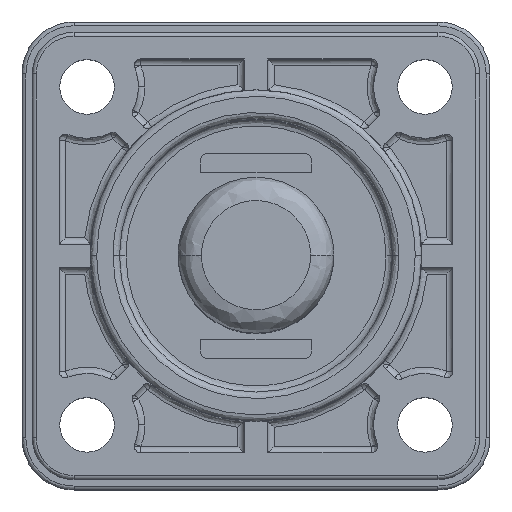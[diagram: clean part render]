
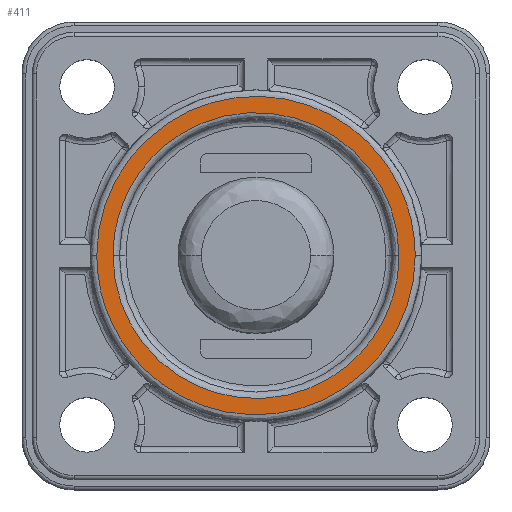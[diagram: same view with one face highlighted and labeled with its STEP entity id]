
A CAD part, top view. The second image highlights one B-rep face of the part: STEP entity #411.
In plain terms, the highlighted planar face has unit normal (0, 0, 1).
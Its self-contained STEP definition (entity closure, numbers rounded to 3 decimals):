
#66 =( BOUNDED_CURVE ( )  B_SPLINE_CURVE ( 3, ( #3121, #10037, #7485, #2292 ),
 .UNSPECIFIED., .F., .F. ) 
 B_SPLINE_CURVE_WITH_KNOTS ( ( 4, 4 ),
 ( 0., 1. ),
 .UNSPECIFIED. ) 
 CURVE ( )  GEOMETRIC_REPRESENTATION_ITEM ( )  RATIONAL_B_SPLINE_CURVE ( ( 1., 0.333, 0.333, 1. ) ) 
 REPRESENTATION_ITEM ( '' )  );
#206 = CARTESIAN_POINT ( 'NONE',  ( -25.513, 17.496, 17.5 ) ) ;
#411 = ADVANCED_FACE ( 'NONE', ( #7375, #724 ), #10288, .F. ) ;
#576 = VERTEX_POINT ( 'NONE', #10977 ) ;
#724 = FACE_BOUND ( 'NONE', #5933, .T. ) ;
#762 = CARTESIAN_POINT ( 'NONE',  ( -23.763, -7.004, 17.5 ) ) ;
#779 = CARTESIAN_POINT ( 'NONE',  ( -2.263, -7.004, 17.5 ) ) ;
#1125 = ORIENTED_EDGE ( 'NONE', *, *, #8592, .F. ) ;
#1225 = AXIS2_PLACEMENT_3D ( 'NONE', #762, #6840, #1635 ) ;
#1273 = VERTEX_POINT ( 'NONE', #2638 ) ;
#1635 = DIRECTION ( 'NONE',  ( -1., 0., 0. ) ) ;
#2292 = CARTESIAN_POINT ( 'NONE',  ( -25.513, -7.004, 17.5 ) ) ;
#2499 = ORIENTED_EDGE ( 'NONE', *, *, #10110, .F. ) ;
#2638 = CARTESIAN_POINT ( 'NONE',  ( -2.263, -7.004, 17.5 ) ) ;
#3121 = CARTESIAN_POINT ( 'NONE',  ( -1.013, -7.004, 17.5 ) ) ;
#3353 = CARTESIAN_POINT ( 'NONE',  ( -2.263, 14.996, 17.5 ) ) ;
#3504 = VERTEX_POINT ( 'NONE', #4298 ) ;
#3691 = CARTESIAN_POINT ( 'NONE',  ( -1.013, 17.496, 17.5 ) ) ;
#3870 = CARTESIAN_POINT ( 'NONE',  ( -25.513, -7.004, 17.5 ) ) ;
#3967 = ORIENTED_EDGE ( 'NONE', *, *, #6251, .F. ) ;
#4226 = CARTESIAN_POINT ( 'NONE',  ( -24.263, -7.004, 17.5 ) ) ;
#4298 = CARTESIAN_POINT ( 'NONE',  ( -24.263, -7.004, 17.5 ) ) ;
#4577 =( BOUNDED_CURVE ( )  B_SPLINE_CURVE ( 3, ( #4226, #9439, #5958, #779 ),
 .UNSPECIFIED., .F., .F. ) 
 B_SPLINE_CURVE_WITH_KNOTS ( ( 4, 4 ),
 ( 0., 1. ),
 .UNSPECIFIED. ) 
 CURVE ( )  GEOMETRIC_REPRESENTATION_ITEM ( )  RATIONAL_B_SPLINE_CURVE ( ( 1., 0.333, 0.333, 1. ) ) 
 REPRESENTATION_ITEM ( '' )  );
#5871 =( BOUNDED_CURVE ( )  B_SPLINE_CURVE ( 3, ( #7164, #206, #3691, #9785 ),
 .UNSPECIFIED., .F., .F. ) 
 B_SPLINE_CURVE_WITH_KNOTS ( ( 4, 4 ),
 ( 0., 1. ),
 .UNSPECIFIED. ) 
 CURVE ( )  GEOMETRIC_REPRESENTATION_ITEM ( )  RATIONAL_B_SPLINE_CURVE ( ( 1., 0.333, 0.333, 1. ) ) 
 REPRESENTATION_ITEM ( '' )  );
#5933 = EDGE_LOOP ( 'NONE', ( #2499, #7708 ) ) ;
#5942 = CARTESIAN_POINT ( 'NONE',  ( -24.263, -7.004, 17.5 ) ) ;
#5958 = CARTESIAN_POINT ( 'NONE',  ( -2.263, -29.004, 17.5 ) ) ;
#6251 = EDGE_CURVE ( 'NONE', #576, #6629, #66, .T. ) ;
#6629 = VERTEX_POINT ( 'NONE', #3870 ) ;
#6840 = DIRECTION ( 'NONE',  ( 0., 0., -1. ) ) ;
#7164 = CARTESIAN_POINT ( 'NONE',  ( -25.513, -7.004, 17.5 ) ) ;
#7276 =( BOUNDED_CURVE ( )  B_SPLINE_CURVE ( 3, ( #9412, #3353, #11121, #5942 ),
 .UNSPECIFIED., .F., .F. ) 
 B_SPLINE_CURVE_WITH_KNOTS ( ( 4, 4 ),
 ( 0., 1. ),
 .UNSPECIFIED. ) 
 CURVE ( )  GEOMETRIC_REPRESENTATION_ITEM ( )  RATIONAL_B_SPLINE_CURVE ( ( 1., 0.333, 0.333, 1. ) ) 
 REPRESENTATION_ITEM ( '' )  );
#7375 = FACE_OUTER_BOUND ( 'NONE', #9269, .T. ) ;
#7485 = CARTESIAN_POINT ( 'NONE',  ( -25.513, -31.504, 17.5 ) ) ;
#7708 = ORIENTED_EDGE ( 'NONE', *, *, #10962, .F. ) ;
#8592 = EDGE_CURVE ( 'NONE', #6629, #576, #5871, .T. ) ;
#9269 = EDGE_LOOP ( 'NONE', ( #1125, #3967 ) ) ;
#9412 = CARTESIAN_POINT ( 'NONE',  ( -2.263, -7.004, 17.5 ) ) ;
#9439 = CARTESIAN_POINT ( 'NONE',  ( -24.263, -29.004, 17.5 ) ) ;
#9785 = CARTESIAN_POINT ( 'NONE',  ( -1.013, -7.004, 17.5 ) ) ;
#10037 = CARTESIAN_POINT ( 'NONE',  ( -1.013, -31.504, 17.5 ) ) ;
#10110 = EDGE_CURVE ( 'NONE', #3504, #1273, #4577, .T. ) ;
#10288 = PLANE ( 'NONE',  #1225 ) ;
#10962 = EDGE_CURVE ( 'NONE', #1273, #3504, #7276, .T. ) ;
#10977 = CARTESIAN_POINT ( 'NONE',  ( -1.013, -7.004, 17.5 ) ) ;
#11121 = CARTESIAN_POINT ( 'NONE',  ( -24.263, 14.996, 17.5 ) ) ;
